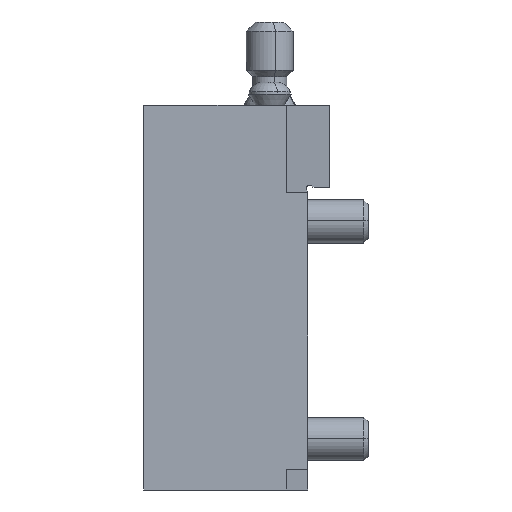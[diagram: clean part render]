
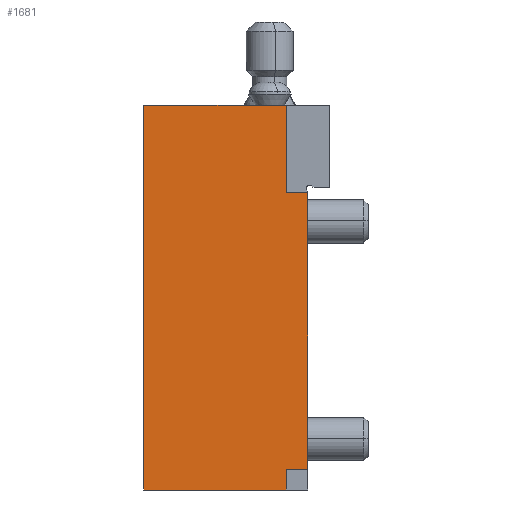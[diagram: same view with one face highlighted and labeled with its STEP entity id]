
A CAD part, left-side view. The second image highlights one B-rep face of the part: STEP entity #1681.
In plain terms, the highlighted planar face has unit normal (-1, 0, 0).
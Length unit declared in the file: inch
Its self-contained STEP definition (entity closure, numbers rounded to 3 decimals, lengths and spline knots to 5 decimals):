
#203 = CARTESIAN_POINT ( 'NONE',  ( -1.77165, -0.55, 3.52 ) ) ;
#352 = EDGE_CURVE ( 'NONE', #17209, #5386, #7973, .T. ) ;
#637 = DIRECTION ( 'NONE',  ( 0., -0.342, -0.94 ) ) ;
#689 = ORIENTED_EDGE ( 'NONE', *, *, #2159, .T. ) ;
#741 = VECTOR ( 'NONE', #2228, 39.37008 ) ;
#1315 = VERTEX_POINT ( 'NONE', #7837 ) ;
#1681 = ADVANCED_FACE ( 'NONE', ( #3307 ), #6293, .T. ) ;
#1868 = VERTEX_POINT ( 'NONE', #11474 ) ;
#2159 = EDGE_CURVE ( 'NONE', #17077, #1315, #6348, .T. ) ;
#2187 = VECTOR ( 'NONE', #6353, 39.37008 ) ;
#2228 = DIRECTION ( 'NONE',  ( 0., 0., 1. ) ) ;
#2247 = ORIENTED_EDGE ( 'NONE', *, *, #352, .T. ) ;
#2282 = VECTOR ( 'NONE', #4685, 39.37008 ) ;
#2393 = DIRECTION ( 'NONE',  ( 0., -1., 0. ) ) ;
#2411 = ORIENTED_EDGE ( 'NONE', *, *, #16441, .F. ) ;
#2848 = VECTOR ( 'NONE', #7591, 39.37008 ) ;
#2857 = CARTESIAN_POINT ( 'NONE',  ( -1.77165, -0.55, 0. ) ) ;
#3307 = FACE_OUTER_BOUND ( 'NONE', #14848, .T. ) ;
#3388 = LINE ( 'NONE', #10994, #2848 ) ;
#3879 = CARTESIAN_POINT ( 'NONE',  ( -1.77165, -0.55, 0.19 ) ) ;
#4491 = CARTESIAN_POINT ( 'NONE',  ( -1.77165, -0.55, 0.19 ) ) ;
#4685 = DIRECTION ( 'NONE',  ( 0., 0., -1. ) ) ;
#4704 = CARTESIAN_POINT ( 'NONE',  ( -1.77165, -0.95, 3.52 ) ) ;
#4705 = VECTOR ( 'NONE', #17330, 39.37008 ) ;
#5020 = CARTESIAN_POINT ( 'NONE',  ( -1.77165, -0.73681, 2.74474 ) ) ;
#5242 = LINE ( 'NONE', #12731, #741 ) ;
#5386 = VERTEX_POINT ( 'NONE', #19391 ) ;
#6198 = CARTESIAN_POINT ( 'NONE',  ( -1.77165, -0.95, 3.52 ) ) ;
#6293 = PLANE ( 'NONE',  #8893 ) ;
#6348 = LINE ( 'NONE', #8061, #11213 ) ;
#6353 = DIRECTION ( 'NONE',  ( 0., 0., -1. ) ) ;
#6937 = ORIENTED_EDGE ( 'NONE', *, *, #8049, .T. ) ;
#7591 = DIRECTION ( 'NONE',  ( 0., 1., 0. ) ) ;
#7814 = DIRECTION ( 'NONE',  ( 0., 1., 0. ) ) ;
#7837 = CARTESIAN_POINT ( 'NONE',  ( -1.77165, -0.75, 2.7085 ) ) ;
#7973 = LINE ( 'NONE', #17218, #2187 ) ;
#8049 = EDGE_CURVE ( 'NONE', #16447, #17209, #18373, .T. ) ;
#8061 = CARTESIAN_POINT ( 'NONE',  ( -1.77165, -0.75, 0. ) ) ;
#8167 = LINE ( 'NONE', #11267, #4705 ) ;
#8542 = ORIENTED_EDGE ( 'NONE', *, *, #18265, .T. ) ;
#8893 = AXIS2_PLACEMENT_3D ( 'NONE', #6198, #13609, #18283 ) ;
#8951 = VERTEX_POINT ( 'NONE', #13188 ) ;
#9199 = LINE ( 'NONE', #4491, #2282 ) ;
#9964 = EDGE_CURVE ( 'NONE', #14197, #5386, #3388, .T. ) ;
#10083 = LINE ( 'NONE', #17649, #13502 ) ;
#10360 = VECTOR ( 'NONE', #7814, 39.37008 ) ;
#10590 = EDGE_CURVE ( 'NONE', #8951, #1868, #8167, .T. ) ;
#10710 = ORIENTED_EDGE ( 'NONE', *, *, #10590, .T. ) ;
#10994 = CARTESIAN_POINT ( 'NONE',  ( -1.77165, -0.95, 0. ) ) ;
#11213 = VECTOR ( 'NONE', #12657, 39.37008 ) ;
#11267 = CARTESIAN_POINT ( 'NONE',  ( -1.77165, -0.95, 2.72 ) ) ;
#11474 = CARTESIAN_POINT ( 'NONE',  ( -1.77165, -0.55, 2.72 ) ) ;
#11874 = VECTOR ( 'NONE', #637, 39.37008 ) ;
#12657 = DIRECTION ( 'NONE',  ( 0., 0., 1. ) ) ;
#12731 = CARTESIAN_POINT ( 'NONE',  ( -1.77165, -0.55, 2.72 ) ) ;
#12793 = CARTESIAN_POINT ( 'NONE',  ( -1.77165, -0.75, 0.19 ) ) ;
#12982 = EDGE_CURVE ( 'NONE', #8951, #1315, #16989, .T. ) ;
#13188 = CARTESIAN_POINT ( 'NONE',  ( -1.77165, -0.74581, 2.72 ) ) ;
#13502 = VECTOR ( 'NONE', #2393, 39.37008 ) ;
#13609 = DIRECTION ( 'NONE',  ( -1., 0., 0. ) ) ;
#14197 = VERTEX_POINT ( 'NONE', #2857 ) ;
#14247 = ORIENTED_EDGE ( 'NONE', *, *, #9964, .F. ) ;
#14267 = EDGE_CURVE ( 'NONE', #1868, #16447, #5242, .T. ) ;
#14848 = EDGE_LOOP ( 'NONE', ( #14247, #2411, #8542, #689, #14988, #10710, #17806, #6937, #2247 ) ) ;
#14858 = CARTESIAN_POINT ( 'NONE',  ( -1.77165, 0.75, 3.52 ) ) ;
#14988 = ORIENTED_EDGE ( 'NONE', *, *, #12982, .F. ) ;
#16441 = EDGE_CURVE ( 'NONE', #16741, #14197, #9199, .T. ) ;
#16447 = VERTEX_POINT ( 'NONE', #203 ) ;
#16741 = VERTEX_POINT ( 'NONE', #3879 ) ;
#16989 = LINE ( 'NONE', #5020, #11874 ) ;
#17077 = VERTEX_POINT ( 'NONE', #12793 ) ;
#17209 = VERTEX_POINT ( 'NONE', #14858 ) ;
#17218 = CARTESIAN_POINT ( 'NONE',  ( -1.77165, 0.75, 3.52 ) ) ;
#17330 = DIRECTION ( 'NONE',  ( 0., 1., 0. ) ) ;
#17649 = CARTESIAN_POINT ( 'NONE',  ( -1.77165, -0.55, 0.19 ) ) ;
#17806 = ORIENTED_EDGE ( 'NONE', *, *, #14267, .T. ) ;
#18265 = EDGE_CURVE ( 'NONE', #16741, #17077, #10083, .T. ) ;
#18283 = DIRECTION ( 'NONE',  ( 0., -1., 0. ) ) ;
#18373 = LINE ( 'NONE', #4704, #10360 ) ;
#19391 = CARTESIAN_POINT ( 'NONE',  ( -1.77165, 0.75, 0. ) ) ;
